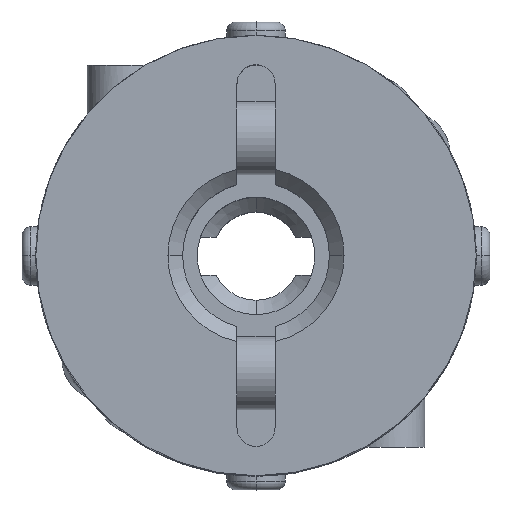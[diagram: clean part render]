
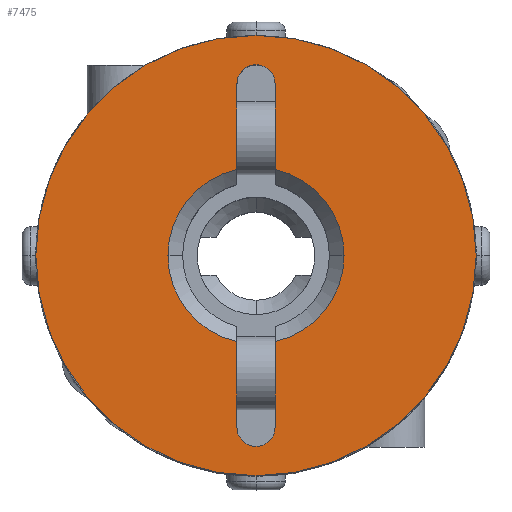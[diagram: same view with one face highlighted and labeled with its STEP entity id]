
A CAD part, top view. The second image highlights one B-rep face of the part: STEP entity #7475.
In plain terms, the highlighted planar face has unit normal (0, 0, 1).
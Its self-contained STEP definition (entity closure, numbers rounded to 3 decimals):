
#1033=CARTESIAN_POINT('',(-7.5,0.,9.0));
#1034=VERTEX_POINT('',#1033);
#1041=CARTESIAN_POINT('',(7.5,0.0,9.0));
#1042=VERTEX_POINT('',#1041);
#1043=CARTESIAN_POINT('',(0.0,0.0,9.0));
#1044=DIRECTION('',(0.0,0.0,-1.0));
#1045=DIRECTION('',(1.0,0.0,0.0));
#1046=AXIS2_PLACEMENT_3D('',#1043,#1044,#1045);
#1047=CIRCLE('',#1046,7.5);
#1048=EDGE_CURVE('',#1034,#1042,#1047,.T.);
#1400=CARTESIAN_POINT('',(3.0,0.,9.0));
#1401=VERTEX_POINT('',#1400);
#1408=CARTESIAN_POINT('',(0.65,2.929,9.0));
#1409=VERTEX_POINT('',#1408);
#1410=CARTESIAN_POINT('',(0.0,0.0,9.0));
#1411=DIRECTION('',(0.0,0.0,1.0));
#1412=DIRECTION('',(-1.0,0.0,0.0));
#1413=AXIS2_PLACEMENT_3D('',#1410,#1411,#1412);
#1414=CIRCLE('',#1413,3.0);
#1415=EDGE_CURVE('',#1401,#1409,#1414,.T.);
#1439=CARTESIAN_POINT('',(-3.0,0.,9.0));
#1440=VERTEX_POINT('',#1439);
#1448=CARTESIAN_POINT('',(-0.65,2.929,9.0));
#1449=VERTEX_POINT('',#1448);
#1463=CARTESIAN_POINT('',(0.0,0.0,9.0));
#1464=DIRECTION('',(0.0,0.0,1.0));
#1465=DIRECTION('',(-1.0,0.0,0.0));
#1466=AXIS2_PLACEMENT_3D('',#1463,#1464,#1465);
#1467=CIRCLE('',#1466,3.0);
#1468=EDGE_CURVE('',#1449,#1440,#1467,.T.);
#1478=CARTESIAN_POINT('',(0.46,6.31,9.0));
#1479=VERTEX_POINT('',#1478);
#1488=CARTESIAN_POINT('',(-0.65,5.85,9.0));
#1489=VERTEX_POINT('',#1488);
#1490=CARTESIAN_POINT('',(0.,5.85,9.0));
#1491=DIRECTION('',(0.0,0.0,1.0));
#1492=DIRECTION('',(0.707,0.707,0.0));
#1493=AXIS2_PLACEMENT_3D('',#1490,#1491,#1492);
#1494=CIRCLE('',#1493,0.65);
#1495=EDGE_CURVE('',#1479,#1489,#1494,.T.);
#1520=CARTESIAN_POINT('',(0.46,-6.31,9.0));
#1521=VERTEX_POINT('',#1520);
#1530=CARTESIAN_POINT('',(0.65,-5.85,9.0));
#1531=VERTEX_POINT('',#1530);
#1532=CARTESIAN_POINT('',(0.,-5.85,9.0));
#1533=DIRECTION('',(0.0,0.0,1.0));
#1534=DIRECTION('',(-0.707,-0.707,0.0));
#1535=AXIS2_PLACEMENT_3D('',#1532,#1533,#1534);
#1536=CIRCLE('',#1535,0.65);
#1537=EDGE_CURVE('',#1521,#1531,#1536,.T.);
#7201=CARTESIAN_POINT('',(-0.65,-5.85,9.0));
#7202=VERTEX_POINT('',#7201);
#7209=CARTESIAN_POINT('',(0.,-5.85,9.0));
#7210=DIRECTION('',(0.0,0.0,1.0));
#7211=DIRECTION('',(-0.707,-0.707,0.0));
#7212=AXIS2_PLACEMENT_3D('',#7209,#7210,#7211);
#7213=CIRCLE('',#7212,0.65);
#7214=EDGE_CURVE('',#7202,#1521,#7213,.T.);
#7225=CARTESIAN_POINT('',(0.65,-2.929,9.0));
#7226=VERTEX_POINT('',#7225);
#7227=CARTESIAN_POINT('',(0.65,-2.929,9.0));
#7228=DIRECTION('',(0.0,-1.0,0.0));
#7229=VECTOR('',#7228,2.921);
#7230=LINE('',#7227,#7229);
#7231=EDGE_CURVE('',#7226,#1531,#7230,.T.);
#7274=CARTESIAN_POINT('',(-0.65,2.929,9.0));
#7275=DIRECTION('',(0.0,1.0,0.0));
#7276=VECTOR('',#7275,2.921);
#7277=LINE('',#7274,#7276);
#7278=EDGE_CURVE('',#1449,#1489,#7277,.T.);
#7325=CARTESIAN_POINT('',(0.65,5.85,9.0));
#7326=VERTEX_POINT('',#7325);
#7333=CARTESIAN_POINT('',(0.,5.85,9.0));
#7334=DIRECTION('',(0.0,0.0,1.0));
#7335=DIRECTION('',(0.707,0.707,0.0));
#7336=AXIS2_PLACEMENT_3D('',#7333,#7334,#7335);
#7337=CIRCLE('',#7336,0.65);
#7338=EDGE_CURVE('',#7326,#1479,#7337,.T.);
#7372=CARTESIAN_POINT('',(0.65,5.85,9.0));
#7373=DIRECTION('',(0.0,-1.0,0.0));
#7374=VECTOR('',#7373,2.921);
#7375=LINE('',#7372,#7374);
#7376=EDGE_CURVE('',#7326,#1409,#7375,.T.);
#7406=CARTESIAN_POINT('',(-0.65,-2.929,9.0));
#7407=VERTEX_POINT('',#7406);
#7421=CARTESIAN_POINT('',(-0.65,-5.85,9.0));
#7422=DIRECTION('',(0.0,1.0,0.0));
#7423=VECTOR('',#7422,2.921);
#7424=LINE('',#7421,#7423);
#7425=EDGE_CURVE('',#7202,#7407,#7424,.T.);
#7434=CARTESIAN_POINT('',(0.682,0.,9.0));
#7435=DIRECTION('',(0.0,0.0,1.0));
#7436=DIRECTION('',(1.0,0.0,0.0));
#7437=AXIS2_PLACEMENT_3D('',#7434,#7435,#7436);
#7438=PLANE('',#7437);
#7439=CARTESIAN_POINT('',(0.0,0.0,9.0));
#7440=DIRECTION('',(0.0,0.0,-1.0));
#7441=DIRECTION('',(1.0,0.0,0.0));
#7442=AXIS2_PLACEMENT_3D('',#7439,#7440,#7441);
#7443=CIRCLE('',#7442,7.5);
#7444=EDGE_CURVE('',#1042,#1034,#7443,.T.);
#7445=ORIENTED_EDGE('',*,*,#7444,.F.);
#7446=ORIENTED_EDGE('',*,*,#1048,.F.);
#7447=EDGE_LOOP('',(#7445,#7446));
#7448=FACE_OUTER_BOUND('',#7447,.T.);
#7449=ORIENTED_EDGE('',*,*,#7231,.T.);
#7450=ORIENTED_EDGE('',*,*,#1537,.F.);
#7451=ORIENTED_EDGE('',*,*,#7214,.F.);
#7452=ORIENTED_EDGE('',*,*,#7425,.T.);
#7453=CARTESIAN_POINT('',(0.0,0.0,9.0));
#7454=DIRECTION('',(0.0,0.0,1.0));
#7455=DIRECTION('',(-1.0,0.0,0.0));
#7456=AXIS2_PLACEMENT_3D('',#7453,#7454,#7455);
#7457=CIRCLE('',#7456,3.0);
#7458=EDGE_CURVE('',#1440,#7407,#7457,.T.);
#7459=ORIENTED_EDGE('',*,*,#7458,.F.);
#7460=ORIENTED_EDGE('',*,*,#1468,.F.);
#7461=ORIENTED_EDGE('',*,*,#7278,.T.);
#7462=ORIENTED_EDGE('',*,*,#1495,.F.);
#7463=ORIENTED_EDGE('',*,*,#7338,.F.);
#7464=ORIENTED_EDGE('',*,*,#7376,.T.);
#7465=ORIENTED_EDGE('',*,*,#1415,.F.);
#7466=CARTESIAN_POINT('',(0.0,0.0,9.0));
#7467=DIRECTION('',(0.0,0.0,1.0));
#7468=DIRECTION('',(-1.0,0.0,0.0));
#7469=AXIS2_PLACEMENT_3D('',#7466,#7467,#7468);
#7470=CIRCLE('',#7469,3.0);
#7471=EDGE_CURVE('',#7226,#1401,#7470,.T.);
#7472=ORIENTED_EDGE('',*,*,#7471,.F.);
#7473=EDGE_LOOP('',(#7449,#7450,#7451,#7452,#7459,#7460,#7461,#7462,#7463,#7464,#7465,#7472));
#7474=FACE_BOUND('',#7473,.T.);
#7475=ADVANCED_FACE('',(#7448,#7474),#7438,.T.);
